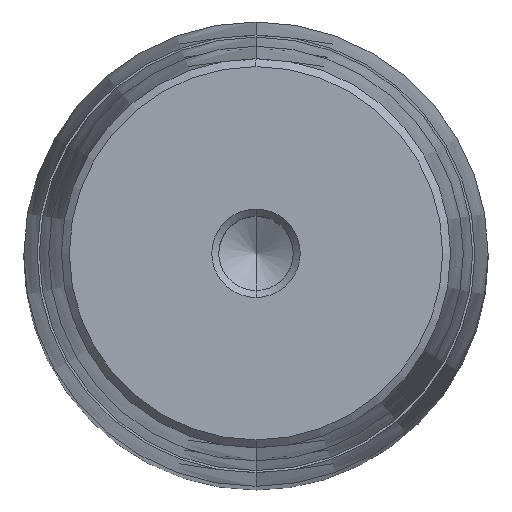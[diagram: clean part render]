
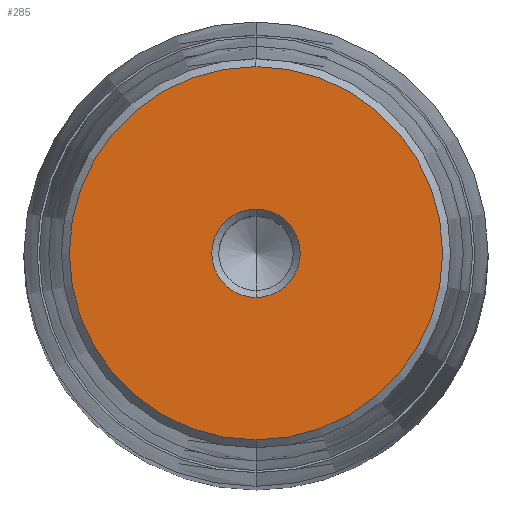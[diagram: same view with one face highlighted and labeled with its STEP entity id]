
A CAD part, top view. The second image highlights one B-rep face of the part: STEP entity #285.
In plain terms, the highlighted planar face has unit normal (0, 0, 1).
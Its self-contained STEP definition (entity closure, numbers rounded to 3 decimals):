
#164=CARTESIAN_POINT('Axis2P3D Location',(0.,0.,69.)) ;
#168=CARTESIAN_POINT('Vertex',(6.,0.,69.)) ;
#170=CARTESIAN_POINT('Vertex',(0.,-6.,69.)) ;
#173=CARTESIAN_POINT('Axis2P3D Location',(0.,0.,69.)) ;
#177=CARTESIAN_POINT('Vertex',(0.,6.,69.)) ;
#228=CARTESIAN_POINT('Axis2P3D Location',(0.,6.,69.)) ;
#233=CARTESIAN_POINT('Axis2P3D Location',(0.,0.,69.)) ;
#237=CARTESIAN_POINT('Vertex',(0.,25.325,69.)) ;
#239=CARTESIAN_POINT('Vertex',(25.325,0.,69.)) ;
#242=CARTESIAN_POINT('Axis2P3D Location',(0.,0.,69.)) ;
#246=CARTESIAN_POINT('Vertex',(-25.325,0.,69.)) ;
#249=CARTESIAN_POINT('Axis2P3D Location',(0.,0.,69.)) ;
#253=CARTESIAN_POINT('Vertex',(0.,-25.325,69.)) ;
#256=CARTESIAN_POINT('Axis2P3D Location',(0.,0.,69.)) ;
#267=CARTESIAN_POINT('Axis2P3D Location',(0.,0.,69.)) ;
#271=CARTESIAN_POINT('Vertex',(-6.,0.,69.)) ;
#274=CARTESIAN_POINT('Axis2P3D Location',(0.,0.,69.)) ;
#165=DIRECTION('Axis2P3D Direction',(0.,0.,1.)) ;
#174=DIRECTION('Axis2P3D Direction',(0.,0.,1.)) ;
#229=DIRECTION('Axis2P3D Direction',(-0.,0.,-1.)) ;
#230=DIRECTION('Axis2P3D XDirection',(0.,1.,0.)) ;
#234=DIRECTION('Axis2P3D Direction',(-0.,0.,-1.)) ;
#243=DIRECTION('Axis2P3D Direction',(-0.,0.,-1.)) ;
#250=DIRECTION('Axis2P3D Direction',(-0.,0.,-1.)) ;
#257=DIRECTION('Axis2P3D Direction',(-0.,0.,-1.)) ;
#268=DIRECTION('Axis2P3D Direction',(-0.,0.,-1.)) ;
#275=DIRECTION('Axis2P3D Direction',(-0.,0.,-1.)) ;
#166=AXIS2_PLACEMENT_3D('Circle Axis2P3D',#164,#165,$) ;
#175=AXIS2_PLACEMENT_3D('Circle Axis2P3D',#173,#174,$) ;
#231=AXIS2_PLACEMENT_3D('Plane Axis2P3D',#228,#229,#230) ;
#235=AXIS2_PLACEMENT_3D('Circle Axis2P3D',#233,#234,$) ;
#244=AXIS2_PLACEMENT_3D('Circle Axis2P3D',#242,#243,$) ;
#251=AXIS2_PLACEMENT_3D('Circle Axis2P3D',#249,#250,$) ;
#258=AXIS2_PLACEMENT_3D('Circle Axis2P3D',#256,#257,$) ;
#269=AXIS2_PLACEMENT_3D('Circle Axis2P3D',#267,#268,$) ;
#276=AXIS2_PLACEMENT_3D('Circle Axis2P3D',#274,#275,$) ;
#262=ORIENTED_EDGE('',*,*,#241,.F.) ;
#263=ORIENTED_EDGE('',*,*,#248,.F.) ;
#264=ORIENTED_EDGE('',*,*,#255,.F.) ;
#265=ORIENTED_EDGE('',*,*,#260,.F.) ;
#280=ORIENTED_EDGE('',*,*,#172,.T.) ;
#281=ORIENTED_EDGE('',*,*,#273,.T.) ;
#282=ORIENTED_EDGE('',*,*,#278,.T.) ;
#283=ORIENTED_EDGE('',*,*,#179,.T.) ;
#284=FACE_BOUND('',#279,.T.) ;
#285=ADVANCED_FACE('722-63x315x366',(#266,#284),#232,.F.) ;
#167=CIRCLE('generated circle',#166,6.) ;
#176=CIRCLE('generated circle',#175,6.) ;
#236=CIRCLE('generated circle',#235,25.325) ;
#245=CIRCLE('generated circle',#244,25.325) ;
#252=CIRCLE('generated circle',#251,25.325) ;
#259=CIRCLE('generated circle',#258,25.325) ;
#270=CIRCLE('generated circle',#269,6.) ;
#277=CIRCLE('generated circle',#276,6.) ;
#172=EDGE_CURVE('',#169,#171,#167,.F.) ;
#179=EDGE_CURVE('',#178,#169,#176,.F.) ;
#241=EDGE_CURVE('',#238,#240,#236,.T.) ;
#248=EDGE_CURVE('',#247,#238,#245,.T.) ;
#255=EDGE_CURVE('',#254,#247,#252,.T.) ;
#260=EDGE_CURVE('',#240,#254,#259,.T.) ;
#273=EDGE_CURVE('',#171,#272,#270,.T.) ;
#278=EDGE_CURVE('',#272,#178,#277,.T.) ;
#261=EDGE_LOOP('',(#262,#263,#264,#265)) ;
#279=EDGE_LOOP('',(#280,#281,#282,#283)) ;
#266=FACE_OUTER_BOUND('',#261,.T.) ;
#232=PLANE('Plane',#231) ;
#169=VERTEX_POINT('',#168) ;
#171=VERTEX_POINT('',#170) ;
#178=VERTEX_POINT('',#177) ;
#238=VERTEX_POINT('',#237) ;
#240=VERTEX_POINT('',#239) ;
#247=VERTEX_POINT('',#246) ;
#254=VERTEX_POINT('',#253) ;
#272=VERTEX_POINT('',#271) ;
